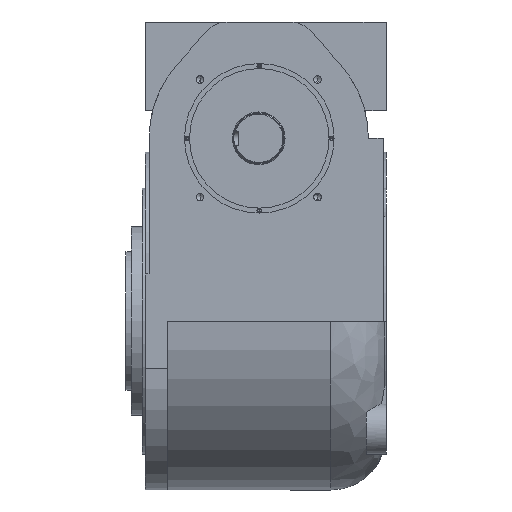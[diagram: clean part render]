
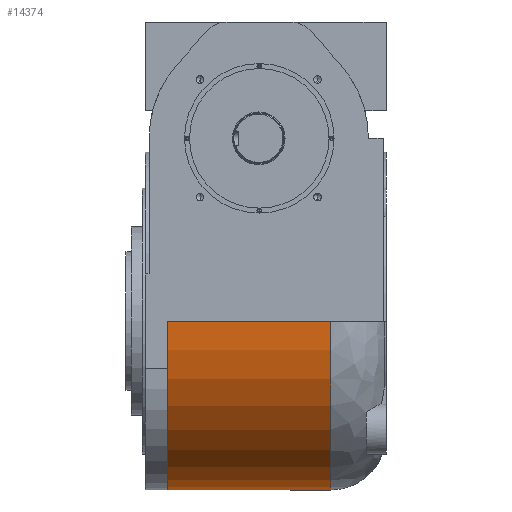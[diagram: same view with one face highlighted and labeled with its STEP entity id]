
A CAD part, left-side view. The second image highlights one B-rep face of the part: STEP entity #14374.
In plain terms, the highlighted cylindrical face has radius 305 mm (diameter 610 mm), a partial arc.
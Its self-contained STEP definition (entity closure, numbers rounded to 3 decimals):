
#134 = VECTOR ( 'NONE', #26298, 1000. ) ;
#1701 = AXIS2_PLACEMENT_3D ( 'NONE', #17900, #39157, #20975 ) ;
#1957 = CARTESIAN_POINT ( 'NONE',  ( 0., -335., -305. ) ) ;
#2292 = EDGE_CURVE ( 'NONE', #19883, #18759, #19359, .T. ) ;
#2832 = AXIS2_PLACEMENT_3D ( 'NONE', #6880, #28141, #9930 ) ;
#3209 = VECTOR ( 'NONE', #29136, 1000. ) ;
#4480 = ORIENTED_EDGE ( 'NONE', *, *, #38281, .T. ) ;
#4739 = DIRECTION ( 'NONE',  ( 0., 1., 0. ) ) ;
#5063 = CARTESIAN_POINT ( 'NONE',  ( -305., -435., 0. ) ) ;
#6880 = CARTESIAN_POINT ( 'NONE',  ( 0., -40., 0. ) ) ;
#6990 = CIRCLE ( 'NONE', #8068, 305. ) ;
#7395 = VERTEX_POINT ( 'NONE', #1957 ) ;
#8068 = AXIS2_PLACEMENT_3D ( 'NONE', #12877, #34087, #15945 ) ;
#8831 = ORIENTED_EDGE ( 'NONE', *, *, #9917, .T. ) ;
#9052 = CARTESIAN_POINT ( 'NONE',  ( 305., -40., 0. ) ) ;
#9311 = EDGE_CURVE ( 'NONE', #18759, #7395, #12165, .T. ) ;
#9917 = EDGE_CURVE ( 'NONE', #31637, #37062, #32568, .T. ) ;
#9930 = DIRECTION ( 'NONE',  ( 0., 0., 1. ) ) ;
#10188 = ORIENTED_EDGE ( 'NONE', *, *, #24099, .T. ) ;
#10901 = CARTESIAN_POINT ( 'NONE',  ( -305., -40., 0. ) ) ;
#12165 = CIRCLE ( 'NONE', #35626, 305. ) ;
#12877 = CARTESIAN_POINT ( 'NONE',  ( 0., -40., 0. ) ) ;
#13131 = DIRECTION ( 'NONE',  ( 0., 0., 1. ) ) ;
#13173 = EDGE_CURVE ( 'NONE', #28315, #31637, #23422, .T. ) ;
#14374 = ADVANCED_FACE ( 'NONE', ( #22843 ), #21886, .T. ) ;
#15945 = DIRECTION ( 'NONE',  ( 0., 0., 1. ) ) ;
#16207 = DIRECTION ( 'NONE',  ( 0., 1., 0. ) ) ;
#17900 = CARTESIAN_POINT ( 'NONE',  ( 0., -335., 0. ) ) ;
#18436 = CIRCLE ( 'NONE', #1701, 305. ) ;
#18759 = VERTEX_POINT ( 'NONE', #27610 ) ;
#19359 = LINE ( 'NONE', #26068, #3209 ) ;
#19883 = VERTEX_POINT ( 'NONE', #9052 ) ;
#20399 = CARTESIAN_POINT ( 'NONE',  ( -305., -335., 0. ) ) ;
#20975 = DIRECTION ( 'NONE',  ( 0., 0., 1. ) ) ;
#21418 = ORIENTED_EDGE ( 'NONE', *, *, #13173, .T. ) ;
#21886 = CYLINDRICAL_SURFACE ( 'NONE', #26516, 305. ) ;
#22608 = CARTESIAN_POINT ( 'NONE',  ( 0., -40., -305. ) ) ;
#22843 = FACE_OUTER_BOUND ( 'NONE', #35649, .T. ) ;
#22945 = CARTESIAN_POINT ( 'NONE',  ( 0., -335., 0. ) ) ;
#23422 = LINE ( 'NONE', #5063, #134 ) ;
#24099 = EDGE_CURVE ( 'NONE', #7395, #28315, #18436, .T. ) ;
#25979 = DIRECTION ( 'NONE',  ( 0., 0., 1. ) ) ;
#26068 = CARTESIAN_POINT ( 'NONE',  ( 305., -435., 0. ) ) ;
#26298 = DIRECTION ( 'NONE',  ( 0., 1., 0. ) ) ;
#26516 = AXIS2_PLACEMENT_3D ( 'NONE', #34336, #16207, #13131 ) ;
#27610 = CARTESIAN_POINT ( 'NONE',  ( 305., -335., 0. ) ) ;
#28141 = DIRECTION ( 'NONE',  ( 0., -1., 0. ) ) ;
#28315 = VERTEX_POINT ( 'NONE', #20399 ) ;
#28986 = ORIENTED_EDGE ( 'NONE', *, *, #2292, .T. ) ;
#29136 = DIRECTION ( 'NONE',  ( 0., -1., 0. ) ) ;
#31637 = VERTEX_POINT ( 'NONE', #10901 ) ;
#32568 = CIRCLE ( 'NONE', #2832, 305. ) ;
#34087 = DIRECTION ( 'NONE',  ( 0., -1., 0. ) ) ;
#34336 = CARTESIAN_POINT ( 'NONE',  ( 0., -435., 0. ) ) ;
#35626 = AXIS2_PLACEMENT_3D ( 'NONE', #22945, #4739, #25979 ) ;
#35649 = EDGE_LOOP ( 'NONE', ( #8831, #4480, #28986, #39440, #10188, #21418 ) ) ;
#37062 = VERTEX_POINT ( 'NONE', #22608 ) ;
#38281 = EDGE_CURVE ( 'NONE', #37062, #19883, #6990, .T. ) ;
#39157 = DIRECTION ( 'NONE',  ( 0., 1., 0. ) ) ;
#39440 = ORIENTED_EDGE ( 'NONE', *, *, #9311, .T. ) ;
